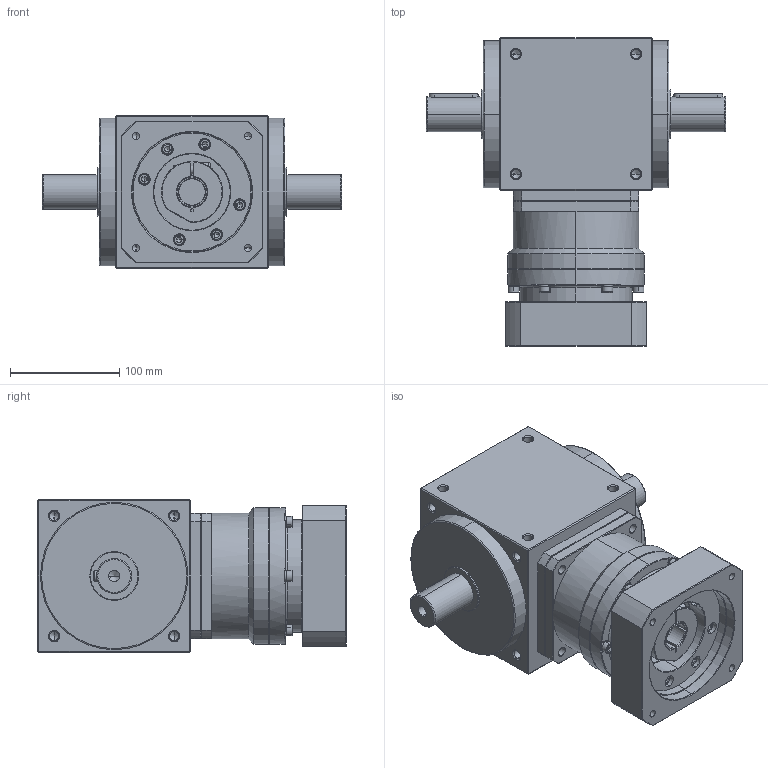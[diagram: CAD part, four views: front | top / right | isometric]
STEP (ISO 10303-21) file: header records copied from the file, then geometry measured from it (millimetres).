
FILE_DESCRIPTION (( 'STEP AP203' ), '1' );
FILE_NAME ('AT140-FL-L1 24-110-145-M8.STEP', '2024-12-21T07:53:03', ( '' ), ( '' ), 'SwSTEP 2.0', 'SolidWorks 2021', '' );
FILE_SCHEMA (( 'CONFIG_CONTROL_DESIGN' ));
Length unit declared in the file: millimetre
Products named in the file (3): AT140-FL; VRB-115-L1-S2-P1 24-110-145-M8; AT140-FL-L1 24-110-145-M8
Assembly tree (2 placements, depth 2):
  AT140-FL-L1 24-110-145-M8
    AT140-FL
    VRB-115-L1-S2-P1 24-110-145-M8
Bounding box: 274 x 282.5 x 140 mm (x, y, z)
Volume: 4874847.9 mm3; surface area: 362087.7 mm2
Topology: 33 solids, 33 shells, 1216 faces, 2962 edges, 1788 vertices
Faces by surface type: plane 460, cylinder 444, cone 268, torus 44
Entity records: 36552 total; most frequent: CARTESIAN_POINT 7935, DIRECTION 6254, ORIENTED_EDGE 5716, EDGE_CURVE 2858, AXIS2_PLACEMENT_3D 2456, VERTEX_POINT 1786, EDGE_LOOP 1362, LINE 1342
